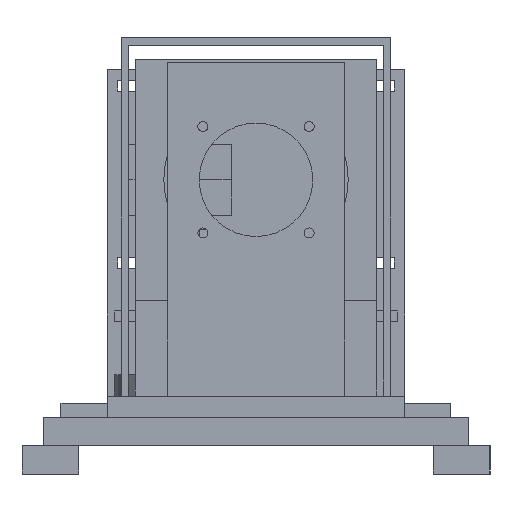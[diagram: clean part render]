
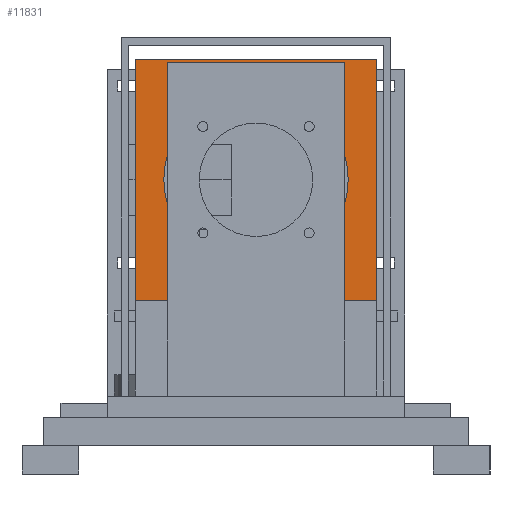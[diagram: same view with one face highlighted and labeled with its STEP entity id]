
A CAD part, left-side view. The second image highlights one B-rep face of the part: STEP entity #11831.
In plain terms, the highlighted planar face has unit normal (-1, 0, 0).
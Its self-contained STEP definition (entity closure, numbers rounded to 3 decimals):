
#11074 = PLANE('',#11075);
#11075 = AXIS2_PLACEMENT_3D('',#11076,#11077,#11078);
#11076 = CARTESIAN_POINT('',(-2.3,-34.,6.));
#11077 = DIRECTION('',(0.,1.,0.));
#11078 = DIRECTION('',(0.,0.,1.));
#11198 = PLANE('',#11199);
#11199 = AXIS2_PLACEMENT_3D('',#11200,#11201,#11202);
#11200 = CARTESIAN_POINT('',(-2.3,34.,6.));
#11201 = DIRECTION('',(0.,1.,0.));
#11202 = DIRECTION('',(0.,0.,1.));
#11376 = PLANE('',#11377);
#11377 = AXIS2_PLACEMENT_3D('',#11378,#11379,#11380);
#11378 = CARTESIAN_POINT('',(-2.3,-34.,101.));
#11379 = DIRECTION('',(0.,0.,1.));
#11380 = DIRECTION('',(1.,0.,0.));
#11761 = CYLINDRICAL_SURFACE('',#11762,26.);
#11762 = AXIS2_PLACEMENT_3D('',#11763,#11764,#11765);
#11763 = CARTESIAN_POINT('',(-6.,0.,67.));
#11764 = DIRECTION('',(-1.,-0.,0.));
#11765 = DIRECTION('',(0.,0.,-1.));
#11776 = EDGE_CURVE('',#11777,#11777,#11779,.T.);
#11777 = VERTEX_POINT('',#11778);
#11778 = CARTESIAN_POINT('',(-4.3,0.,41.));
#11779 = SURFACE_CURVE('',#11780,(#11785,#11792),.PCURVE_S1.);
#11780 = CIRCLE('',#11781,26.);
#11781 = AXIS2_PLACEMENT_3D('',#11782,#11783,#11784);
#11782 = CARTESIAN_POINT('',(-4.3,0.,67.));
#11783 = DIRECTION('',(-1.,-0.,0.));
#11784 = DIRECTION('',(0.,0.,-1.));
#11785 = PCURVE('',#11761,#11786);
#11786 = DEFINITIONAL_REPRESENTATION('',(#11787),#11791);
#11787 = LINE('',#11788,#11789);
#11788 = CARTESIAN_POINT('',(-6.283,-1.7));
#11789 = VECTOR('',#11790,1.);
#11790 = DIRECTION('',(1.,-0.));
#11791 = ( GEOMETRIC_REPRESENTATION_CONTEXT(2) 
PARAMETRIC_REPRESENTATION_CONTEXT() REPRESENTATION_CONTEXT('2D SPACE',''
  ) );
#11792 = PCURVE('',#11793,#11798);
#11793 = PLANE('',#11794);
#11794 = AXIS2_PLACEMENT_3D('',#11795,#11796,#11797);
#11795 = CARTESIAN_POINT('',(-4.3,-34.,33.));
#11796 = DIRECTION('',(1.,0.,0.));
#11797 = DIRECTION('',(0.,0.,1.));
#11798 = DEFINITIONAL_REPRESENTATION('',(#11799),#11807);
#11799 = ( BOUNDED_CURVE() B_SPLINE_CURVE(2,(#11800,#11801,#11802,#11803
    ,#11804,#11805,#11806),.UNSPECIFIED.,.T.,.F.) 
B_SPLINE_CURVE_WITH_KNOTS((1,2,2,2,2,1),(-2.094,0.,
    2.094,4.189,6.283,8.378),
.UNSPECIFIED.) CURVE() GEOMETRIC_REPRESENTATION_ITEM() 
RATIONAL_B_SPLINE_CURVE((1.,0.5,1.,0.5,1.,0.5,1.)) REPRESENTATION_ITEM(
  '') );
#11800 = CARTESIAN_POINT('',(8.,-34.));
#11801 = CARTESIAN_POINT('',(8.,11.033));
#11802 = CARTESIAN_POINT('',(47.,-11.483));
#11803 = CARTESIAN_POINT('',(86.,-34.));
#11804 = CARTESIAN_POINT('',(47.,-56.517));
#11805 = CARTESIAN_POINT('',(8.,-79.033));
#11806 = CARTESIAN_POINT('',(8.,-34.));
#11807 = ( GEOMETRIC_REPRESENTATION_CONTEXT(2) 
PARAMETRIC_REPRESENTATION_CONTEXT() REPRESENTATION_CONTEXT('2D SPACE',''
  ) );
#11831 = ADVANCED_FACE('',(#11832,#11931),#11793,.F.);
#11832 = FACE_BOUND('',#11833,.F.);
#11833 = EDGE_LOOP('',(#11834,#11859,#11887,#11910));
#11834 = ORIENTED_EDGE('',*,*,#11835,.F.);
#11835 = EDGE_CURVE('',#11836,#11838,#11840,.T.);
#11836 = VERTEX_POINT('',#11837);
#11837 = CARTESIAN_POINT('',(-4.3,-34.,33.));
#11838 = VERTEX_POINT('',#11839);
#11839 = CARTESIAN_POINT('',(-4.3,-34.,101.));
#11840 = SURFACE_CURVE('',#11841,(#11845,#11852),.PCURVE_S1.);
#11841 = LINE('',#11842,#11843);
#11842 = CARTESIAN_POINT('',(-4.3,-34.,33.));
#11843 = VECTOR('',#11844,1.);
#11844 = DIRECTION('',(0.,0.,1.));
#11845 = PCURVE('',#11793,#11846);
#11846 = DEFINITIONAL_REPRESENTATION('',(#11847),#11851);
#11847 = LINE('',#11848,#11849);
#11848 = CARTESIAN_POINT('',(0.,0.));
#11849 = VECTOR('',#11850,1.);
#11850 = DIRECTION('',(1.,0.));
#11851 = ( GEOMETRIC_REPRESENTATION_CONTEXT(2) 
PARAMETRIC_REPRESENTATION_CONTEXT() REPRESENTATION_CONTEXT('2D SPACE',''
  ) );
#11852 = PCURVE('',#11074,#11853);
#11853 = DEFINITIONAL_REPRESENTATION('',(#11854),#11858);
#11854 = LINE('',#11855,#11856);
#11855 = CARTESIAN_POINT('',(27.,-2.));
#11856 = VECTOR('',#11857,1.);
#11857 = DIRECTION('',(1.,0.));
#11858 = ( GEOMETRIC_REPRESENTATION_CONTEXT(2) 
PARAMETRIC_REPRESENTATION_CONTEXT() REPRESENTATION_CONTEXT('2D SPACE',''
  ) );
#11859 = ORIENTED_EDGE('',*,*,#11860,.T.);
#11860 = EDGE_CURVE('',#11836,#11861,#11863,.T.);
#11861 = VERTEX_POINT('',#11862);
#11862 = CARTESIAN_POINT('',(-4.3,34.,33.));
#11863 = SURFACE_CURVE('',#11864,(#11868,#11875),.PCURVE_S1.);
#11864 = LINE('',#11865,#11866);
#11865 = CARTESIAN_POINT('',(-4.3,-34.,33.));
#11866 = VECTOR('',#11867,1.);
#11867 = DIRECTION('',(0.,1.,0.));
#11868 = PCURVE('',#11793,#11869);
#11869 = DEFINITIONAL_REPRESENTATION('',(#11870),#11874);
#11870 = LINE('',#11871,#11872);
#11871 = CARTESIAN_POINT('',(0.,0.));
#11872 = VECTOR('',#11873,1.);
#11873 = DIRECTION('',(0.,-1.));
#11874 = ( GEOMETRIC_REPRESENTATION_CONTEXT(2) 
PARAMETRIC_REPRESENTATION_CONTEXT() REPRESENTATION_CONTEXT('2D SPACE',''
  ) );
#11875 = PCURVE('',#11876,#11881);
#11876 = PLANE('',#11877);
#11877 = AXIS2_PLACEMENT_3D('',#11878,#11879,#11880);
#11878 = CARTESIAN_POINT('',(-4.3,-34.,33.));
#11879 = DIRECTION('',(0.,0.,1.));
#11880 = DIRECTION('',(1.,0.,0.));
#11881 = DEFINITIONAL_REPRESENTATION('',(#11882),#11886);
#11882 = LINE('',#11883,#11884);
#11883 = CARTESIAN_POINT('',(0.,0.));
#11884 = VECTOR('',#11885,1.);
#11885 = DIRECTION('',(0.,1.));
#11886 = ( GEOMETRIC_REPRESENTATION_CONTEXT(2) 
PARAMETRIC_REPRESENTATION_CONTEXT() REPRESENTATION_CONTEXT('2D SPACE',''
  ) );
#11887 = ORIENTED_EDGE('',*,*,#11888,.T.);
#11888 = EDGE_CURVE('',#11861,#11889,#11891,.T.);
#11889 = VERTEX_POINT('',#11890);
#11890 = CARTESIAN_POINT('',(-4.3,34.,101.));
#11891 = SURFACE_CURVE('',#11892,(#11896,#11903),.PCURVE_S1.);
#11892 = LINE('',#11893,#11894);
#11893 = CARTESIAN_POINT('',(-4.3,34.,33.));
#11894 = VECTOR('',#11895,1.);
#11895 = DIRECTION('',(0.,0.,1.));
#11896 = PCURVE('',#11793,#11897);
#11897 = DEFINITIONAL_REPRESENTATION('',(#11898),#11902);
#11898 = LINE('',#11899,#11900);
#11899 = CARTESIAN_POINT('',(0.,-68.));
#11900 = VECTOR('',#11901,1.);
#11901 = DIRECTION('',(1.,0.));
#11902 = ( GEOMETRIC_REPRESENTATION_CONTEXT(2) 
PARAMETRIC_REPRESENTATION_CONTEXT() REPRESENTATION_CONTEXT('2D SPACE',''
  ) );
#11903 = PCURVE('',#11198,#11904);
#11904 = DEFINITIONAL_REPRESENTATION('',(#11905),#11909);
#11905 = LINE('',#11906,#11907);
#11906 = CARTESIAN_POINT('',(27.,-2.));
#11907 = VECTOR('',#11908,1.);
#11908 = DIRECTION('',(1.,0.));
#11909 = ( GEOMETRIC_REPRESENTATION_CONTEXT(2) 
PARAMETRIC_REPRESENTATION_CONTEXT() REPRESENTATION_CONTEXT('2D SPACE',''
  ) );
#11910 = ORIENTED_EDGE('',*,*,#11911,.F.);
#11911 = EDGE_CURVE('',#11838,#11889,#11912,.T.);
#11912 = SURFACE_CURVE('',#11913,(#11917,#11924),.PCURVE_S1.);
#11913 = LINE('',#11914,#11915);
#11914 = CARTESIAN_POINT('',(-4.3,-34.,101.));
#11915 = VECTOR('',#11916,1.);
#11916 = DIRECTION('',(0.,1.,0.));
#11917 = PCURVE('',#11793,#11918);
#11918 = DEFINITIONAL_REPRESENTATION('',(#11919),#11923);
#11919 = LINE('',#11920,#11921);
#11920 = CARTESIAN_POINT('',(68.,0.));
#11921 = VECTOR('',#11922,1.);
#11922 = DIRECTION('',(0.,-1.));
#11923 = ( GEOMETRIC_REPRESENTATION_CONTEXT(2) 
PARAMETRIC_REPRESENTATION_CONTEXT() REPRESENTATION_CONTEXT('2D SPACE',''
  ) );
#11924 = PCURVE('',#11376,#11925);
#11925 = DEFINITIONAL_REPRESENTATION('',(#11926),#11930);
#11926 = LINE('',#11927,#11928);
#11927 = CARTESIAN_POINT('',(-2.,0.));
#11928 = VECTOR('',#11929,1.);
#11929 = DIRECTION('',(0.,1.));
#11930 = ( GEOMETRIC_REPRESENTATION_CONTEXT(2) 
PARAMETRIC_REPRESENTATION_CONTEXT() REPRESENTATION_CONTEXT('2D SPACE',''
  ) );
#11931 = FACE_BOUND('',#11932,.F.);
#11932 = EDGE_LOOP('',(#11933));
#11933 = ORIENTED_EDGE('',*,*,#11776,.T.);
